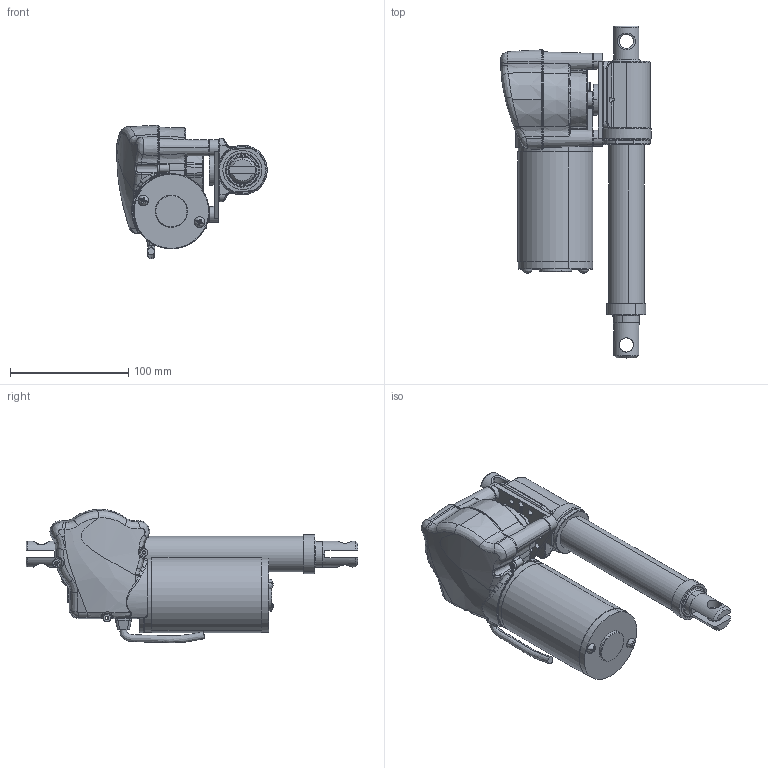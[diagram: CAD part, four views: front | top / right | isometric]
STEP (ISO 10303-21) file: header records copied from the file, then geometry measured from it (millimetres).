
FILE_DESCRIPTION (( 'STEP AP203' ), '1' );
FILE_NAME ('MD56.STEP', '2015-10-26T05:07:47', ( '' ), ( '' ), 'SwSTEP 2.0', 'SolidWorks 2012', '' );
FILE_SCHEMA (( 'CONFIG_CONTROL_DESIGN' ));
Length unit declared in the file: millimetre
Products named in the file (1): MD56
Bounding box: 127.25 x 280.7 x 112.96 mm (x, y, z)
Surface area: 125705.2 mm2 (no closed solid volume)
Topology: 0 solids, 18 shells, 578 faces, 2166 edges, 1582 vertices
Faces by surface type: cylinder 211, bspline 185, plane 130, cone 52
Entity records: 36821 total; most frequent: CARTESIAN_POINT 20230, ORIENTED_EDGE 3462, DIRECTION 2982, EDGE_CURVE 2156, VERTEX_POINT 1582, AXIS2_PLACEMENT_3D 1173, CIRCLE 779, EDGE_LOOP 722
